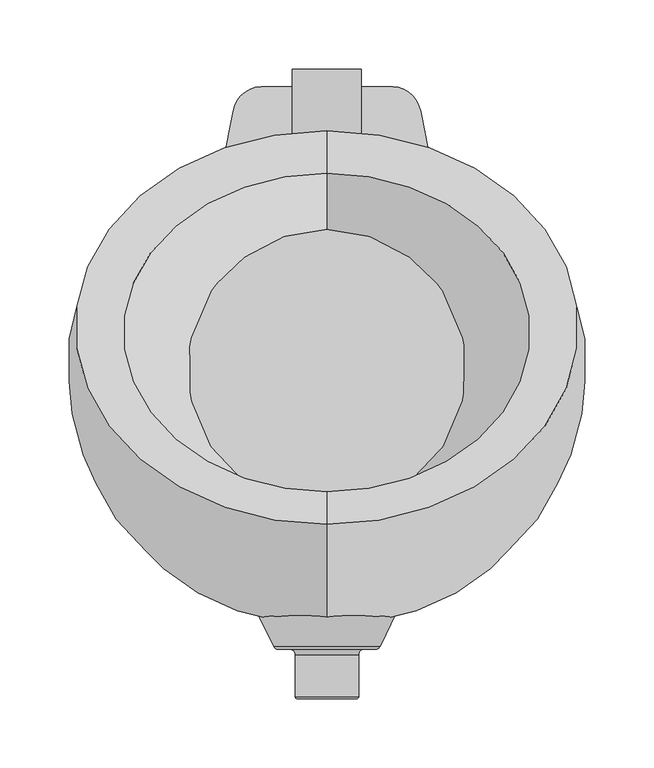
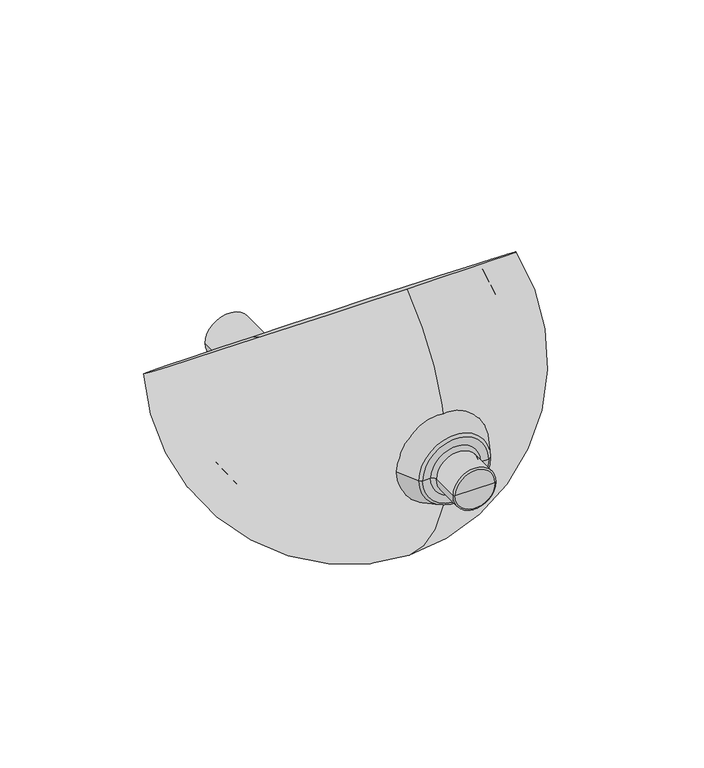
"""IFC4 building model written with IfcOpenShell, lengths in millimetres: flow terminal geometry, DECA_MICTORIO_M_711_RFA : M.711.17_Branco Gelo GE17."""

import ifcopenshell
import ifcopenshell.guid

model = None  # the IFC model being written
_history = None  # IfcOwnerHistory: only IFC2X3 demands one
_inside = {}  # id of a spatial element -> (the spatial element, [elements in it])
_under = {}  # id of a project, library or spatial element -> (it, [spatial elements below it])
_declared = {}  # id of a project -> (the project, [libraries it declares])
_typed = {}  # id of a type object -> (the type object, [elements of that type])
_made_of = {}  # id of a material, layer set ... -> (it, [elements and type objects made of it])


def new_model(schema):
    """Start an empty IFC model of exactly this schema.

    Asked for "IFC4X3", IfcOpenShell would pick the latest addendum, in which some entities
    have other attributes; the version numbers below select the first issue.
    IFC2X3 requires an IfcOwnerHistory on every rooted entity: one is made here for all.
    """
    global model, _history
    if schema == "IFC4X3":
        model = ifcopenshell.file(schema_version=(4, 3, 0, 0))
    else:
        model = ifcopenshell.file(schema=schema)
    _inside.clear()
    _under.clear()
    _declared.clear()
    _typed.clear()
    _made_of.clear()
    _history = None
    if model.schema == "IFC2X3":
        org = make("IfcOrganization", Name="unknown")
        user = make(
            "IfcPersonAndOrganization",
            ThePerson=make("IfcPerson", FamilyName="unknown"),
            TheOrganization=org,
        )
        app = make(
            "IfcApplication",
            ApplicationDeveloper=org,
            Version="unknown",
            ApplicationFullName="unknown",
            ApplicationIdentifier="unknown",
        )
        _history = make(
            "IfcOwnerHistory",
            OwningUser=user,
            OwningApplication=app,
            ChangeAction="ADDED",
            CreationDate=0,
        )
    return model


def make(cls, **values):
    """One entity of the class cls with the attributes given. An attribute that is None is left unset."""
    return model.create_entity(
        cls, **{name: value for name, value in values.items() if value is not None}
    )


def rooted(cls, **values):
    """An entity with a GlobalId (a new one), such as an element, a storey or a relation."""
    return make(cls, GlobalId=ifcopenshell.guid.new(), OwnerHistory=_history, **values)


def si_unit(unit_type, name, prefix=None):
    """IfcSIUnit, for example si_unit("LENGTHUNIT", "METRE", prefix="MILLI")."""
    return make("IfcSIUnit", UnitType=unit_type, Prefix=prefix, Name=name)


def assignment(units):
    """IfcUnitAssignment: the units of a project."""
    return None if units is None else make("IfcUnitAssignment", Units=units)


def point(xyz):
    """IfcCartesianPoint."""
    return None if xyz is None else make("IfcCartesianPoint", Coordinates=xyz)


def direction(xyz):
    """IfcDirection."""
    return None if xyz is None else make("IfcDirection", DirectionRatios=xyz)


def frame(location, z_axis=None, x_axis=None):
    """IfcAxis2Placement3D, a coordinate frame: its origin and axes. An axis left out is left unset."""
    return make(
        "IfcAxis2Placement3D",
        Location=point(location),
        Axis=direction(z_axis),
        RefDirection=direction(x_axis),
    )


def frame_2d(location, x_axis=None):
    """IfcAxis2Placement2D, a coordinate frame in the plane: its origin and x axis."""
    return make(
        "IfcAxis2Placement2D", Location=point(location), RefDirection=direction(x_axis)
    )


def origin():
    """The frame at (0, 0, 0) with its axes left unset."""
    return frame((0.0, 0.0, 0.0))


def origin_with_axes():
    """The frame at (0, 0, 0) with the z axis (0, 0, 1) and the x axis (1, 0, 0) written out."""
    return frame((0.0, 0.0, 0.0), z_axis=(0.0, 0.0, 1.0), x_axis=(1.0, 0.0, 0.0))


def place(relative_to, where):
    """IfcLocalPlacement: puts the frame where relative to a parent placement (None: the world)."""
    return make(
        "IfcLocalPlacement", PlacementRelTo=relative_to, RelativePlacement=where
    )


def context(
    kind, dimensions, precision=None, world=None, true_north=None, identifier=None
):
    """IfcGeometricRepresentationContext, for example the 3D "Model" context."""
    return make(
        "IfcGeometricRepresentationContext",
        ContextIdentifier=identifier,
        ContextType=kind,
        CoordinateSpaceDimension=dimensions,
        Precision=precision,
        WorldCoordinateSystem=world,
        TrueNorth=true_north,
    )


def project(units=None, contexts=None):
    """IfcProject with its units and contexts."""
    return rooted(
        "IfcProject",
        Name="project",
        RepresentationContexts=contexts,
        UnitsInContext=assignment(units),
    )


def spatial(cls, under=None, at=None, **own):
    """A site, building, storey or space (cls), placed at a placement, below another one or the project."""
    s = rooted(cls, ObjectPlacement=at, **own)
    if under is not None:
        _under.setdefault(under.id(), (under, []))[1].append(s)
    return s


def polyline(points):
    """IfcPolyline through the points."""
    return make("IfcPolyline", Points=[point(p) for p in points])


def circle_curve(where, radius):
    """IfcCircle in the frame where."""
    return make("IfcCircle", Position=where, Radius=radius)


def ellipse_curve(where, semi_axis1, semi_axis2):
    """IfcEllipse in the frame where."""
    return make(
        "IfcEllipse", Position=where, SemiAxis1=semi_axis1, SemiAxis2=semi_axis2
    )


def trimmed(basis, trim1, trim2, sense, master):
    """IfcTrimmedCurve: the piece of a basis curve between two trims."""
    return make(
        "IfcTrimmedCurve",
        BasisCurve=basis,
        Trim1=trim1,
        Trim2=trim2,
        SenseAgreement=sense,
        MasterRepresentation=master,
    )


def segment(curve, same_sense, transition):
    """IfcCompositeCurveSegment."""
    return make(
        "IfcCompositeCurveSegment",
        Transition=transition,
        SameSense=same_sense,
        ParentCurve=curve,
    )


def composite_curve(segments, self_intersect=None):
    """IfcCompositeCurve: segments joined end to end."""
    return make("IfcCompositeCurve", Segments=segments, SelfIntersect=self_intersect)


def outline(outer, holes=None, kind="AREA"):
    """IfcArbitraryClosedProfileDef: a profile drawn as a closed curve; with holes, ...WithVoids."""
    if holes is None:
        return make("IfcArbitraryClosedProfileDef", ProfileType=kind, OuterCurve=outer)
    return make(
        "IfcArbitraryProfileDefWithVoids",
        ProfileType=kind,
        OuterCurve=outer,
        InnerCurves=holes,
    )


def extrude(swept, where, along, depth):
    """IfcExtrudedAreaSolid: the profile swept, set in the frame where, extruded along a direction by depth."""
    return make(
        "IfcExtrudedAreaSolid",
        SweptArea=swept,
        Position=where,
        ExtrudedDirection=direction(along),
        Depth=depth,
    )


def shape(context_of_items, identifier, shape_type, items):
    """IfcShapeRepresentation: the items that make up one representation, for example the "Body"."""
    return make(
        "IfcShapeRepresentation",
        ContextOfItems=context_of_items,
        RepresentationIdentifier=identifier,
        RepresentationType=shape_type,
        Items=items,
    )


def source(mapping_origin, context_of_items, identifier, shape_type, items):
    """IfcRepresentationMap: a shape defined once, which mapped items show again and again."""
    return make(
        "IfcRepresentationMap",
        MappingOrigin=mapping_origin,
        MappedRepresentation=shape(context_of_items, identifier, shape_type, items),
    )


def transform(
    local_origin,
    x_axis=None,
    y_axis=None,
    z_axis=None,
    scale=None,
    scale2=None,
    scale3=None,
    uniform=True,
):
    """IfcCartesianTransformationOperator3D, or its non-uniform kind. x_axis, y_axis, z_axis: its Axis1, 2, 3."""
    if uniform:
        return make(
            "IfcCartesianTransformationOperator3D",
            Axis1=direction(x_axis),
            Axis2=direction(y_axis),
            LocalOrigin=point(local_origin),
            Scale=scale,
            Axis3=direction(z_axis),
        )
    return make(
        "IfcCartesianTransformationOperator3DnonUniform",
        Axis1=direction(x_axis),
        Axis2=direction(y_axis),
        LocalOrigin=point(local_origin),
        Scale=scale,
        Axis3=direction(z_axis),
        Scale2=scale2,
        Scale3=scale3,
    )


def mapped(mapping_source, mapping_target):
    """IfcMappedItem: shows the shape of a source again, moved by a transform."""
    return make(
        "IfcMappedItem", MappingSource=mapping_source, MappingTarget=mapping_target
    )


def made_of(thing, what):
    """Note that an element or type object is made of a material, layer set ...; save() writes the relation."""
    if what is not None:
        _made_of.setdefault(what.id(), (what, []))[1].append(thing)
    return thing


def element(
    cls,
    number,
    at=None,
    inside=None,
    cuts=None,
    type_object=None,
    material=None,
    context=None,
    identifier="Body",
    shape_type=None,
    held_by="IfcProductDefinitionShape",
    body=None,
    shapes=None,
    **own,
):
    """One element of the class cls, such as IfcWall. Its Tag is "e" and its number.

    at: its placement. inside: the storey or other place that contains it. cuts: it is an
    opening in that element (IfcRelVoidsElement). A single representation is given by context,
    identifier, shape_type and body (its items); several are given by shapes. held_by: the class
    of the entity that holds the representations. save() writes the other relations.
    """
    e = rooted(cls, Tag="e%d" % number, ObjectPlacement=at, **own)
    if body is not None:
        shapes = [shape(context, identifier, shape_type, body)]
    if shapes is not None:
        e.Representation = make(held_by, Representations=shapes)
    if inside is not None:
        _inside.setdefault(inside.id(), (inside, []))[1].append(e)
    if cuts is not None:
        rooted(
            "IfcRelVoidsElement", RelatingBuildingElement=cuts, RelatedOpeningElement=e
        )
    if type_object is not None:
        _typed.setdefault(type_object.id(), (type_object, []))[1].append(e)
    return made_of(e, material)


def aggregate(whole, parts):
    """IfcRelAggregates: a whole, such as a stair, and the parts it consists of."""
    return rooted("IfcRelAggregates", RelatingObject=whole, RelatedObjects=parts)


def save(model, path):
    """Write the relations noted so far, then the file.

    IfcRelAggregates (storeys below a building ...), IfcRelContainedInSpatialStructure (elements
    in a storey), IfcRelDefinesByType, IfcRelAssociatesMaterial and IfcRelDeclares: one each for
    every whole, place, type object, material and project.
    """
    for whole, parts in _under.values():
        aggregate(whole, parts)
    for where, things in _inside.values():
        rooted(
            "IfcRelContainedInSpatialStructure",
            RelatedElements=things,
            RelatingStructure=where,
        )
    for kind, things in _typed.values():
        rooted("IfcRelDefinesByType", RelatedObjects=things, RelatingType=kind)
    for what, things in _made_of.values():
        rooted("IfcRelAssociatesMaterial", RelatedObjects=things, RelatingMaterial=what)
    for by, libraries in _declared.values():
        rooted("IfcRelDeclares", RelatingContext=by, RelatedDefinitions=libraries)
    model.write(path)


def plane_surface(at):
    """IfcPlane: the flat surface through the origin of the frame at, square to its z axis."""
    return make("IfcPlane", Position=at)


def cylinder_surface(at, radius):
    """IfcCylindricalSurface: all points at the distance radius from the z axis of the frame at."""
    return make("IfcCylindricalSurface", Position=at, Radius=radius)


def revolved_surface(curve, axis_point, axis_direction):
    """IfcSurfaceOfRevolution: the curve turned about the line through axis_point along axis_direction."""
    return make(
        "IfcSurfaceOfRevolution",
        SweptCurve=make("IfcArbitraryOpenProfileDef", ProfileType="CURVE", Curve=curve),
        AxisPosition=make("IfcAxis1Placement", Location=point(axis_point), Axis=direction(axis_direction)),
    )


def advanced_brep(points, edges, surfaces, faces):
    """IfcAdvancedBrep: a solid bounded by faces that lie on surfaces and meet in shared edges.

    An edge is (start, end): straight between two places in points (the first is 0);
    or (start, end, curve); or (start, end, curve, False) where it runs against its curve.
    A face is (place in surfaces, loops), or (place, loops, False) where it looks against
    its surface's normal. A loop lists edges by number (the first is 1), with a minus sign
    where the edge is run from its end to its start. The first loop is the outer one.
    """
    corners = [point(p) for p in points]
    vertices = [make("IfcVertexPoint", VertexGeometry=c) for c in corners]
    made = []
    for start, end, *more in edges:
        made.append(
            make(
                "IfcEdgeCurve",
                EdgeStart=vertices[start],
                EdgeEnd=vertices[end],
                EdgeGeometry=more[0] if more else make("IfcPolyline", Points=[corners[start], corners[end]]),
                SameSense=more[1] if len(more) > 1 else True,
            )
        )
    hull = []
    for where, loops, *sense in faces:
        bounds = []
        for j, loop in enumerate(loops):
            ring = [make("IfcOrientedEdge", EdgeElement=made[abs(k) - 1], Orientation=k > 0) for k in loop]
            bounds.append(
                make(
                    "IfcFaceOuterBound" if j == 0 else "IfcFaceBound",
                    Bound=make("IfcEdgeLoop", EdgeList=ring),
                    Orientation=True,
                )
            )
        hull.append(make("IfcAdvancedFace", Bounds=bounds, FaceSurface=surfaces[where], SameSense=sense[0] if sense else True))
    return make("IfcAdvancedBrep", Outer=make("IfcClosedShell", CfsFaces=hull))


def flow_terminal_a80b1843(model_context):
    return source(origin(), model_context, "Body", "SolidModel", [
        advanced_brep(
        [(0.0, -192.6474742, 143.125), (-21.3227435, -192.6474742, 143.125), (21.3227435, -192.6474742, 143.125), (22.9276487, -191.042569, 143.125), (-22.9276487, -191.042569, 143.125), (-22.9276487, -160.7639876, 143.125), (22.9276487, -160.7639876, 143.125), (-26.7920402, -156.8995962, 143.125), (26.7920402, -156.8995962, 143.125), (-35.3666594, -156.8995962, 143.125), (35.3666594, -156.8995962, 143.125), (38.4242209, -154.7586686, 143.125), (-38.4242209, -154.7586686, 143.125), (-50.1970407, -130.620811, 143.125), (50.1970407, -130.620811, 143.125), (0.0, -130.620811, 143.125)],
        [
            (0, 1),
            (1, 2, circle_curve(frame((0.0, -192.6474742, 143.125), z_axis=(0.0, -1.0, 0.0), x_axis=(-1.0, 0.0, 0.0)), 21.3227435)),
            (2, 0),
            (3, 4, circle_curve(frame((0.0, -191.042569, 143.125), z_axis=(0.0, 1.0, 0.0), x_axis=(-1.0, 0.0, 0.0)), 22.9276487)),
            (4, 5),
            (5, 6, circle_curve(frame((0.0, -160.7639876, 143.125), z_axis=(0.0, -1.0, 0.0), x_axis=(-1.0, 0.0, 0.0)), 22.9276487)),
            (6, 3),
            (1, 4, circle_curve(frame((-21.3227435, -191.042569, 143.125), z_axis=(0.0, 0.0, -1.0), x_axis=(1.0, 0.0, 0.0)), 1.6049053)),
            (3, 2, circle_curve(frame((21.3227435, -191.042569, 143.125), z_axis=(0.0, 0.0, -1.0), x_axis=(-1.0, 0.0, 0.0)), 1.6049053)),
            (5, 7, circle_curve(frame((-26.7920402, -160.7639876, 143.125), z_axis=(0.0, 0.0, 1.0), x_axis=(1.0, 0.0, 0.0)), 3.8643915)),
            (7, 8, circle_curve(frame((0.0, -156.8995962, 143.125), z_axis=(0.0, -1.0, 0.0), x_axis=(-1.0, 0.0, 0.0)), 26.7920402)),
            (8, 6, circle_curve(frame((26.7920402, -160.7639876, 143.125), z_axis=(0.0, 0.0, 1.0), x_axis=(-1.0, 0.0, 0.0)), 3.8643915)),
            (7, 9),
            (9, 10, circle_curve(frame((0.0, -156.8995962, 143.125), z_axis=(0.0, -1.0, 0.0), x_axis=(-1.0, 0.0, 0.0)), 35.3666594)),
            (10, 8),
            (11, 12, circle_curve(frame((0.0, -154.7586686, 143.125), z_axis=(0.0, 1.0, 0.0), x_axis=(-1.0, 0.0, 0.0)), 38.4242209)),
            (12, 13),
            (13, 14, circle_curve(frame((0.0, -130.620811, 143.125), z_axis=(0.0, -1.0, 0.0), x_axis=(-1.0, 0.0, 0.0)), 50.1970407)),
            (14, 11),
            (9, 12, circle_curve(frame((-34.9642724, -153.0711389, 143.125), z_axis=(0.0, 0.0, -1.0), x_axis=(1.0, 0.0, 0.0)), 3.8495454)),
            (11, 10, circle_curve(frame((34.9642724, -153.0711389, 143.125), z_axis=(0.0, 0.0, -1.0), x_axis=(-1.0, 0.0, 0.0)), 3.8495454)),
            (13, 15),
            (15, 14),
            (13, 14, circle_curve(frame((0.0, -130.620811, 143.125), z_axis=(0.0, 1.0, 0.0), x_axis=(-1.0, 0.0, 0.0)), 50.1970407)),
            (12, 11, circle_curve(frame((0.0, -154.7586686, 143.125), z_axis=(0.0, 1.0, 0.0), x_axis=(-1.0, 0.0, 0.0)), 38.4242209)),
            (9, 10, circle_curve(frame((0.0, -156.8995962, 143.125), z_axis=(0.0, 1.0, 0.0), x_axis=(-1.0, 0.0, 0.0)), 35.3666594)),
            (7, 8, circle_curve(frame((0.0, -156.8995962, 143.125), z_axis=(0.0, 1.0, 0.0), x_axis=(-1.0, 0.0, 0.0)), 26.7920402)),
            (5, 6, circle_curve(frame((0.0, -160.7639876, 143.125), z_axis=(0.0, 1.0, 0.0), x_axis=(-1.0, 0.0, 0.0)), 22.9276487)),
            (4, 3, circle_curve(frame((0.0, -191.042569, 143.125), z_axis=(0.0, 1.0, 0.0), x_axis=(-1.0, 0.0, 0.0)), 22.9276487)),
            (1, 2, circle_curve(frame((0.0, -192.6474742, 143.125), z_axis=(0.0, 1.0, 0.0), x_axis=(-1.0, 0.0, 0.0)), 21.3227435)),
        ],
        [
            plane_surface(frame((0.0, -192.6474742, 143.125), z_axis=(0.0, -1.0, 0.0), x_axis=(-1.0, 0.0, 0.0))),
            cylinder_surface(frame((0.0, -112.3070904, 143.125), z_axis=(0.0, -1.0, 0.0), x_axis=(-1.0, 0.0, 0.0)), 22.9276487),
            revolved_surface(trimmed(ellipse_curve(frame((-21.3227435, -191.042569, 143.125), z_axis=(0.0, 0.0, 1.0), x_axis=(1.0, 0.0, 0.0)), 1.6049053, 1.6049053), [point((-22.9276487, -191.042569, 143.125))], [point((-21.3227435, -192.6474742, 143.125))], True, "CARTESIAN"), (0.0, -112.3070904, 143.125), (0.0, -1.0, 0.0)),
            revolved_surface(trimmed(ellipse_curve(frame((-26.7920402, -160.7639876, 143.125), z_axis=(0.0, 0.0, -1.0), x_axis=(1.0, 0.0, 0.0)), 3.8643915, 3.8643915), [point((-26.7920402, -156.8995962, 143.125))], [point((-22.9276487, -160.7639876, 143.125))], True, "CARTESIAN"), (0.0, -112.3070904, 143.125), (0.0, -1.0, 0.0)),
            plane_surface(frame((0.0, -156.8995962, 143.125), z_axis=(0.0, -1.0, 0.0), x_axis=(-1.0, 0.0, 0.0))),
            revolved_surface(polyline([(-50.1970407, -130.620811, 143.125), (-38.4242209, -154.7586686, 143.125)]), (0.0, -112.3070904, 143.125), (0.0, -1.0, 0.0)),
            revolved_surface(trimmed(ellipse_curve(frame((-34.9642724, -153.0711389, 143.125), z_axis=(0.0, 0.0, 1.0), x_axis=(1.0, 0.0, 0.0)), 3.8495454, 3.8495454), [point((-38.4242209, -154.7586686, 143.125))], [point((-35.3666594, -156.8995962, 143.125))], True, "CARTESIAN"), (0.0, -112.3070904, 143.125), (0.0, -1.0, 0.0)),
            plane_surface(frame((0.0, -130.620811, 143.125), z_axis=(0.0, 1.0, 0.0), x_axis=(-1.0, 0.0, 0.0))),
        ],
        [
            (0, [[1, 2, 3]]),
            (1, [[4, 5, 6, 7]]),
            (2, [[-2, 8, -4, 9]]),
            (3, [[-6, 10, 11, 12]]),
            (4, [[-11, 13, 14, 15]]),
            (5, [[16, 17, 18, 19]]),
            (6, [[-14, 20, -16, 21]]),
            (7, [[-18, 22, 23]]),
            (7, [[24, -23, -22]]),
            (5, [[25, -19, -24, -17]]),
            (6, [[26, -21, -25, -20]]),
            (4, [[27, -15, -26, -13]]),
            (3, [[28, -12, -27, -10]]),
            (1, [[29, -7, -28, -5]]),
            (2, [[30, -9, -29, -8]]),
            (0, [[-3, -30, -1]]),
        ],
    ),
        extrude(outline(composite_curve([segment(trimmed(circle_curve(frame_2d((0.0, 55.1869496)), 115.0), [point((-115.0, 55.1869496))], [point((115.0, 55.1869496))], False, "CARTESIAN"), True, "CONTINUOUS"), segment(trimmed(circle_curve(frame_2d((0.0, 55.1869496)), 115.0), [point((115.0, 55.1869496))], [point((-115.0, 55.1869496))], False, "CARTESIAN"), True, "CONTINUOUS")], self_intersect=False)), frame((0.0, 0.0, 19.346897), z_axis=(0.0, 0.0, 1.0), x_axis=(1.0, 0.0, 0.0)), (0.0, 0.0, 1.0), 8.4741975),
        extrude(outline(composite_curve([segment(trimmed(circle_curve(frame_2d((40.5580285, 0.0)), 25.0), [point((40.5580285, 25.0))], [point((40.5580285, -25.0))], False, "CARTESIAN"), True, "CONTINUOUS"), segment(trimmed(circle_curve(frame_2d((40.5580285, 0.0)), 25.0), [point((40.5580285, -25.0))], [point((40.5580285, 25.0))], False, "CARTESIAN"), True, "CONTINUOUS")], self_intersect=False)), frame((0.0, 183.3993759, 0.0), z_axis=(0.0, 1.0, 0.0), x_axis=(0.0, 0.0, 1.0)), (0.0, 0.0, 1.0), 79.1006241),
        extrude(outline(composite_curve([segment(trimmed(circle_curve(frame_2d((46.274666, 228.0671906)), 21.9034159), [point((47.4561365, 249.938719))], [point((67.7689133, 232.2810916))], False, "CARTESIAN"), True, "CONTINUOUS"), segment(polyline([(67.7689133, 232.2810916), (89.29126, 122.5), (-89.378987, 122.5), (-67.8566403, 232.2810916)]), True, "CONTINUOUS"), segment(trimmed(circle_curve(frame_2d((-46.362393, 228.0671906)), 21.9034159), [point((-67.8566403, 232.2810916))], [point((-47.5438635, 249.938719))], False, "CARTESIAN"), True, "CONTINUOUS"), segment(trimmed(circle_curve(frame_2d((-0.0438635, -629.3871867)), 880.6079142), [point((-47.5438635, 249.938719))], [point((47.4561365, 249.938719))], False, "CARTESIAN"), True, "CONTINUOUS")], self_intersect=False)), origin_with_axes(), (0.0, 0.0, 1.0), 15.5),
        advanced_brep(
        [(0.0, -70.7641956, -5.021479), (0.0, -66.6314751, 292.3375086), (0.0, 217.9945422, 66.0970014), (0.0, -43.1175033, 266.2225972), (0.0, 187.2476426, 83.1123954), (0.0, -48.9847636, 22.3785347)],
        [
            (0, 1, circle_curve(frame((0.0, 48.1391039, 142.0342051), z_axis=(-1.0, 0.0, 0.0), x_axis=(0.0, -1.0, 0.0)), 189.1120537)),
            (1, 2, circle_curve(frame((0.0, 75.6815335, 179.217255), z_axis=(0.0, -0.6222429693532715, -0.7828241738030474), x_axis=(0.0, -0.7828241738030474, 0.6222429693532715)), 181.7943459)),
            (2, 0, circle_curve(frame((0.0, 45.6716239, 143.9955294), z_axis=(-1.0, 0.0, 0.0), x_axis=(0.0, 0.22562737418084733, -0.9742136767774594)), 189.1120537)),
            (2, 1, circle_curve(frame((0.0, 75.6815335, 179.217255), z_axis=(0.0, -0.6222429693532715, -0.7828241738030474), x_axis=(0.0, -0.7828241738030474, 0.6222429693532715)), 181.7943459)),
            (1, 3),
            (3, 4, circle_curve(frame((0.0, 72.0650697, 174.6674963), z_axis=(0.0, -0.6222429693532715, -0.7828241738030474), x_axis=(0.0, -0.7828241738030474, 0.6222429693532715)), 147.1372203)),
            (4, 2),
            (4, 3, circle_curve(frame((0.0, 72.0650697, 174.6674963), z_axis=(0.0, -0.6222429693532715, -0.7828241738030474), x_axis=(0.0, -0.7828241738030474, 0.6222429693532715)), 147.1372203)),
            (3, 5, circle_curve(frame((0.0, 48.1391039, 142.0342051), z_axis=(1.0, 0.0, 0.0), x_axis=(0.0, -1.0, 0.0)), 154.1120537)),
            (5, 4, circle_curve(frame((0.0, 45.6716239, 143.9955294), z_axis=(1.0, 0.0, 0.0), x_axis=(0.0, 0.22562737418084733, -0.9742136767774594)), 154.1120537)),
        ],
        [
            revolved_surface(trimmed(ellipse_curve(frame((0.0, 48.1391039, 142.0342051), z_axis=(1.0, 0.0, 0.0), x_axis=(0.0, -1.0, 0.0)), 189.1120537, 189.1120537), [point((0.0, -66.6314751, 292.3375086))], [point((0.0, -70.7641956, -5.021479))], True, "CARTESIAN"), (0.0, -85.1625262, -23.1355627), (0.0, -0.6222429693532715, -0.7828241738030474)),
            revolved_surface(polyline([(0.0, -43.1175033, 266.2225972), (0.0, -66.6314751, 292.3375086)]), (0.0, -85.1625262, -23.1355627), (0.0, -0.6222429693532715, -0.7828241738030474)),
            revolved_surface(trimmed(ellipse_curve(frame((0.0, 48.1391039, 142.0342051), z_axis=(-1.0, 0.0, 0.0), x_axis=(0.0, -1.0, 0.0)), 154.1120537, 154.1120537), [point((0.0, -48.9847636, 22.3785347))], [point((0.0, -43.1175033, 266.2225972))], True, "CARTESIAN"), (0.0, -85.1625262, -23.1355627), (0.0, -0.6222429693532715, -0.7828241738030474)),
        ],
        [
            (0, [[1, 2, 3]]),
            (0, [[-3, 4, -1]]),
            (1, [[-2, 5, 6, 7]]),
            (1, [[-4, -7, 8, -5]]),
            (2, [[-6, 9, 10]]),
            (2, [[-8, -10, -9]]),
        ],
    ),
    ])


if __name__ == "__main__":
    model = new_model("IFC4")
    model_context = context("Model", 3, world=origin())
    ifc_project = project(units=[si_unit("LENGTHUNIT", "METRE", prefix="MILLI")], contexts=[model_context])
    site = spatial("IfcSite", under=ifc_project)
    building = spatial("IfcBuilding", under=site)
    placement = place(None, origin())
    flow_terminal_shape = flow_terminal_a80b1843(model_context)
    element("IfcFlowTerminal", 1, ObjectType="DECA_MICTORIO_M_711_RFA : M.711.17_Branco Gelo GE17", at=placement, inside=building, context=model_context, shape_type="MappedRepresentation", body=[
        mapped(flow_terminal_shape, transform((0.0, 0.0, 0.0), x_axis=(1.0, 0.0, 0.0), y_axis=(0.0, 1.0, 0.0), z_axis=(0.0, 0.0, 1.0))),
    ])
    save(model, "model.ifc")
